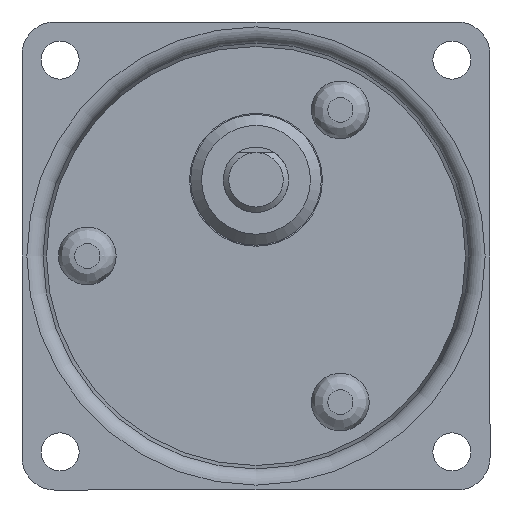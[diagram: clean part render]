
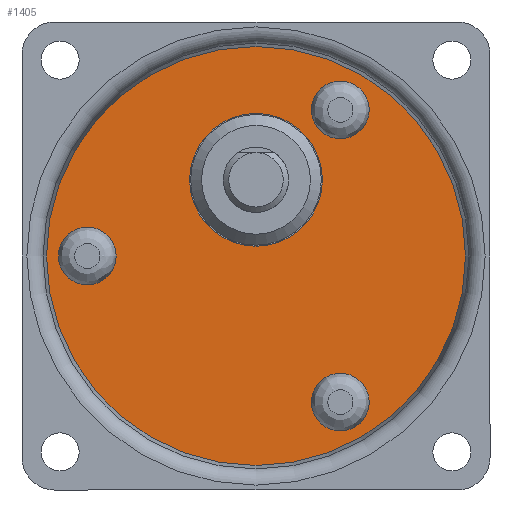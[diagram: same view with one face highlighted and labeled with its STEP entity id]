
A CAD part, front view. The second image highlights one B-rep face of the part: STEP entity #1405.
In plain terms, the highlighted planar face has unit normal (0, -1, 0).
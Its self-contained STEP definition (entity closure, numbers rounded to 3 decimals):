
#912=CARTESIAN_POINT('',(6.425,-6.3,-11.128));
#913=VERTEX_POINT('',#912);
#914=CARTESIAN_POINT('',(7.75,-6.3,-13.423));
#915=DIRECTION('',(0.,1.0,0.));
#916=DIRECTION('',(0.5,0.,-0.866));
#917=AXIS2_PLACEMENT_3D('',#914,#915,#916);
#918=CIRCLE('',#917,2.65);
#919=EDGE_CURVE('',#913,#913,#918,.T.);
#1017=CARTESIAN_POINT('',(6.425,-6.3,11.128));
#1018=VERTEX_POINT('',#1017);
#1019=CARTESIAN_POINT('',(7.75,-6.3,13.423));
#1020=DIRECTION('',(0.,1.0,0.));
#1021=DIRECTION('',(0.5,0.,0.866));
#1022=AXIS2_PLACEMENT_3D('',#1019,#1020,#1021);
#1023=CIRCLE('',#1022,2.65);
#1024=EDGE_CURVE('',#1018,#1018,#1023,.T.);
#1122=CARTESIAN_POINT('',(-12.85,-6.3,0.));
#1123=VERTEX_POINT('',#1122);
#1124=CARTESIAN_POINT('',(-15.5,-6.3,0.));
#1125=DIRECTION('',(0.0,1.0,0.0));
#1126=DIRECTION('',(-1.0,0.0,0.0));
#1127=AXIS2_PLACEMENT_3D('',#1124,#1125,#1126);
#1128=CIRCLE('',#1127,2.65);
#1129=EDGE_CURVE('',#1123,#1123,#1128,.T.);
#1162=CARTESIAN_POINT('',(6.1,-6.3,7.));
#1163=VERTEX_POINT('',#1162);
#1164=CARTESIAN_POINT('',(0.,-6.3,7.0));
#1165=DIRECTION('',(0.0,1.0,0.0));
#1166=DIRECTION('',(-1.0,0.0,0.0));
#1167=AXIS2_PLACEMENT_3D('',#1164,#1165,#1166);
#1168=CIRCLE('',#1167,6.1);
#1169=EDGE_CURVE('',#1163,#1163,#1168,.T.);
#1247=CARTESIAN_POINT('',(0.,-6.3,-19.25));
#1248=VERTEX_POINT('',#1247);
#1249=CARTESIAN_POINT('',(0.,-6.3,0.));
#1250=DIRECTION('',(0.0,-1.0,0.0));
#1251=DIRECTION('',(0.0,0.0,1.0));
#1252=AXIS2_PLACEMENT_3D('',#1249,#1250,#1251);
#1253=CIRCLE('',#1252,19.25);
#1254=EDGE_CURVE('',#1248,#1248,#1253,.F.);
#1385=CARTESIAN_POINT('',(0.,-6.3,10.059));
#1386=DIRECTION('',(0.0,1.0,0.0));
#1387=DIRECTION('',(0.0,0.0,1.0));
#1388=AXIS2_PLACEMENT_3D('',#1385,#1386,#1387);
#1389=PLANE('',#1388);
#1390=ORIENTED_EDGE('',*,*,#1254,.F.);
#1391=EDGE_LOOP('',(#1390));
#1392=FACE_OUTER_BOUND('',#1391,.T.);
#1393=ORIENTED_EDGE('',*,*,#919,.T.);
#1394=EDGE_LOOP('',(#1393));
#1395=FACE_BOUND('',#1394,.T.);
#1396=ORIENTED_EDGE('',*,*,#1024,.T.);
#1397=EDGE_LOOP('',(#1396));
#1398=FACE_BOUND('',#1397,.T.);
#1399=ORIENTED_EDGE('',*,*,#1129,.T.);
#1400=EDGE_LOOP('',(#1399));
#1401=FACE_BOUND('',#1400,.T.);
#1402=ORIENTED_EDGE('',*,*,#1169,.T.);
#1403=EDGE_LOOP('',(#1402));
#1404=FACE_BOUND('',#1403,.T.);
#1405=ADVANCED_FACE('',(#1392,#1395,#1398,#1401,#1404),#1389,.F.);
